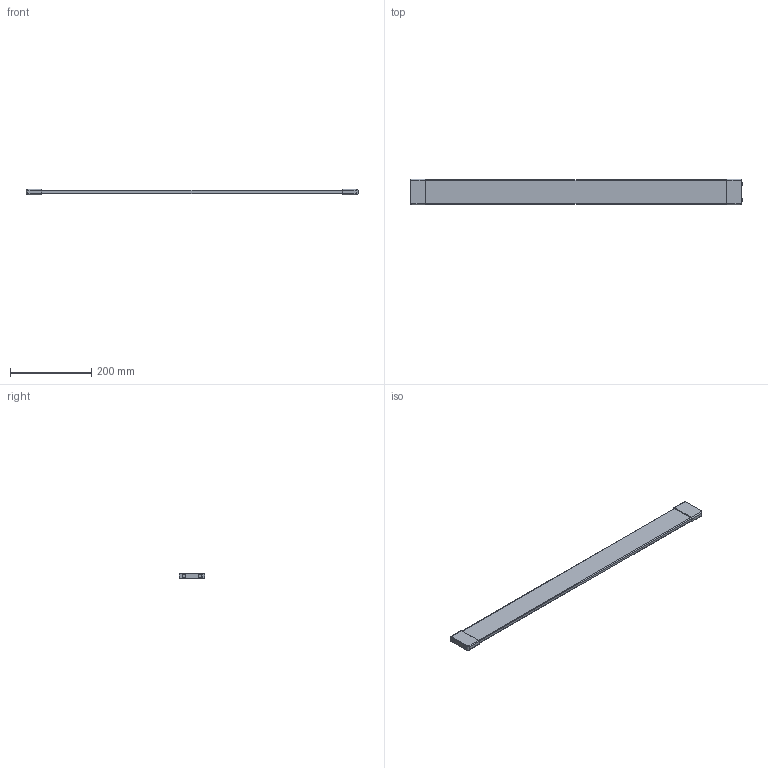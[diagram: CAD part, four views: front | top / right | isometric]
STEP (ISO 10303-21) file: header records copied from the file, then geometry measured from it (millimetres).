
FILE_DESCRIPTION (( 'STEP AP214' ), '1' );
FILE_NAME ('Schubkastenteiler_PROKAB_900.step', '2009-11-04T15:16:52', ( 'Waldinger Reinhard' ), ( 'Grass GmbH' ), 'SwSTEP 2.0', 'SolidWorks 2009', '' );
FILE_SCHEMA (( 'AUTOMOTIVE_DESIGN' ));
Length unit declared in the file: millimetre
Products named in the file (1): Schubkastenteiler_PROKAB_900
Bounding box: 817.9 x 63.7 x 13 mm (x, y, z)
Volume: 493497.9 mm3; surface area: 113782 mm2
Topology: 1 solids, 1 shells, 92 faces, 208 edges, 124 vertices
Faces by surface type: cylinder 38, torus 28, plane 22, bspline 4
Entity records: 3210 total; most frequent: CARTESIAN_POINT 1069, DIRECTION 486, ORIENTED_EDGE 416, EDGE_CURVE 208, AXIS2_PLACEMENT_3D 205, VERTEX_POINT 124, CIRCLE 116, EDGE_LOOP 98
